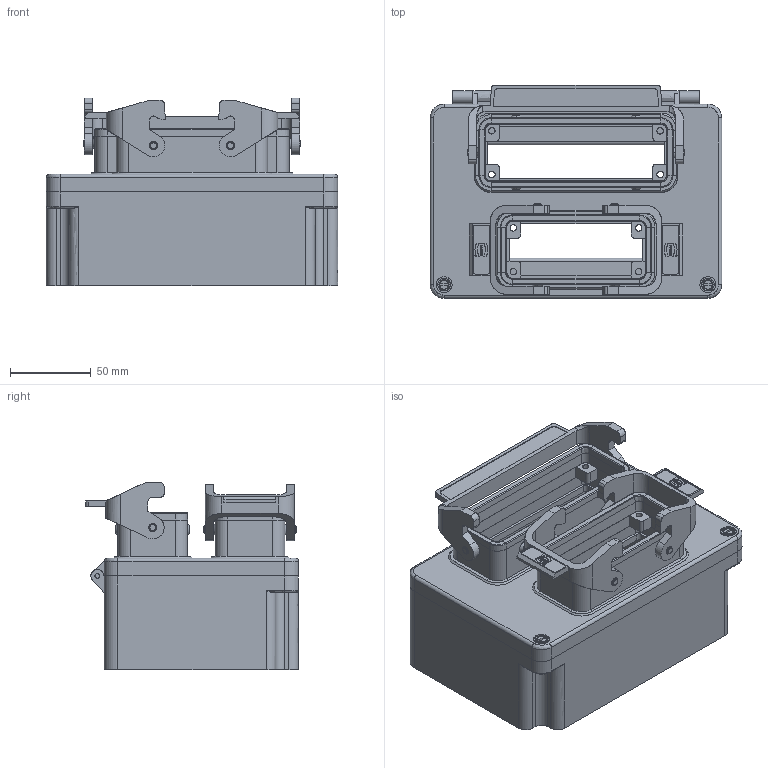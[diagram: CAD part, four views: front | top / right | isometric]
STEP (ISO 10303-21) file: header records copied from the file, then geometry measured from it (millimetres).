
FILE_DESCRIPTION( ( 'STEP AP214' ), '1' );
FILE_NAME( 'C:/Dokumente und Einstellungen/Administrator/Desktop/47 Kabelboxen/G4/11/gr_4_24e_16e-ba.stp', '2006-09-10T20:58:43', ( ' ' ), ( ' ' ), 'XStep 1.0', 'VISICAD', ' ' );
FILE_SCHEMA( ( 'automotive_design' ) );
Length unit declared in the file: millimetre
Products named in the file (1486): 1; 2; 3; 4; 5; 6; 7; 8; 9; 10; 11; 12; 13; 14; 15; 16; 17; 18; 19; 20; 21; 22; 23; 24; 25; 26; 27; 28; 29; 30; 31; 32; 33; 34; 35; 36; 37; 38; 39; 40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
Bounding box: 180 x 131.5 x 115.9 mm (x, y, z)
Surface area: 214857 mm2 (no closed solid volume)
Topology: 0 solids, 1486 shells, 1486 faces, 7509 edges, 7501 vertices
Faces by surface type: plane 818, bspline 320, revolution 244, cylinder 104
Full cylindrical faces by diameter (mm): 0.76 x2, 0.84 x2, 5.1 x4
Entity records: 155185 total; most frequent: CARTESIAN_POINT 65097, DIRECTION 11308, ORIENTED_EDGE 7501, EDGE_CURVE 7501, VERTEX_POINT 7501, LINE 4714, VECTOR 4714, AXIS2_PLACEMENT_3D 3175
